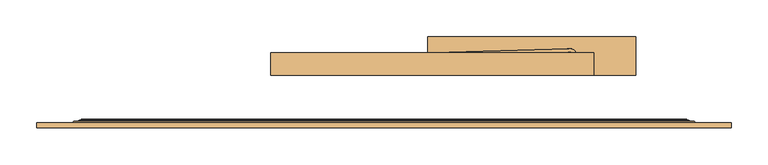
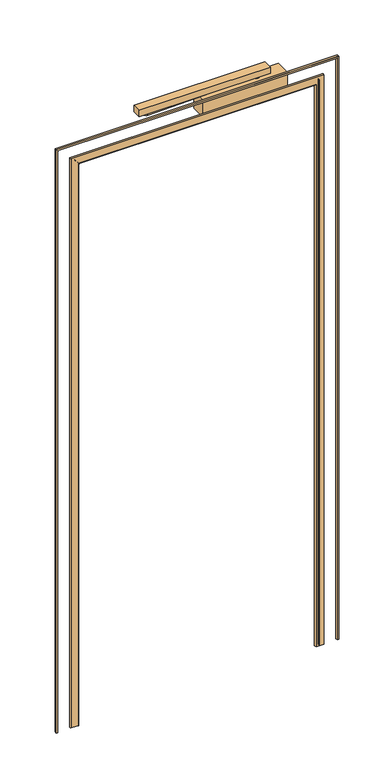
"""IFC4 building model written with IfcOpenShell, lengths in millimetres: door geometry, Peneder_HIGHLINEflat zero_1-flügelig_V2019 : Zargentyp - 07 - Stumpf FP V."""

import ifcopenshell
import ifcopenshell.guid

model = None  # the IFC model being written
_history = None  # IfcOwnerHistory: only IFC2X3 demands one
_inside = {}  # id of a spatial element -> (the spatial element, [elements in it])
_under = {}  # id of a project, library or spatial element -> (it, [spatial elements below it])
_declared = {}  # id of a project -> (the project, [libraries it declares])
_typed = {}  # id of a type object -> (the type object, [elements of that type])
_made_of = {}  # id of a material, layer set ... -> (it, [elements and type objects made of it])


def new_model(schema):
    """Start an empty IFC model of exactly this schema.

    Asked for "IFC4X3", IfcOpenShell would pick the latest addendum, in which some entities
    have other attributes; the version numbers below select the first issue.
    IFC2X3 requires an IfcOwnerHistory on every rooted entity: one is made here for all.
    """
    global model, _history
    if schema == "IFC4X3":
        model = ifcopenshell.file(schema_version=(4, 3, 0, 0))
    else:
        model = ifcopenshell.file(schema=schema)
    _inside.clear()
    _under.clear()
    _declared.clear()
    _typed.clear()
    _made_of.clear()
    _history = None
    if model.schema == "IFC2X3":
        org = make("IfcOrganization", Name="unknown")
        user = make(
            "IfcPersonAndOrganization",
            ThePerson=make("IfcPerson", FamilyName="unknown"),
            TheOrganization=org,
        )
        app = make(
            "IfcApplication",
            ApplicationDeveloper=org,
            Version="unknown",
            ApplicationFullName="unknown",
            ApplicationIdentifier="unknown",
        )
        _history = make(
            "IfcOwnerHistory",
            OwningUser=user,
            OwningApplication=app,
            ChangeAction="ADDED",
            CreationDate=0,
        )
    return model


def make(cls, **values):
    """One entity of the class cls with the attributes given. An attribute that is None is left unset."""
    return model.create_entity(
        cls, **{name: value for name, value in values.items() if value is not None}
    )


def rooted(cls, **values):
    """An entity with a GlobalId (a new one), such as an element, a storey or a relation."""
    return make(cls, GlobalId=ifcopenshell.guid.new(), OwnerHistory=_history, **values)


def si_unit(unit_type, name, prefix=None):
    """IfcSIUnit, for example si_unit("LENGTHUNIT", "METRE", prefix="MILLI")."""
    return make("IfcSIUnit", UnitType=unit_type, Prefix=prefix, Name=name)


def assignment(units):
    """IfcUnitAssignment: the units of a project."""
    return None if units is None else make("IfcUnitAssignment", Units=units)


def point(xyz):
    """IfcCartesianPoint."""
    return None if xyz is None else make("IfcCartesianPoint", Coordinates=xyz)


def direction(xyz):
    """IfcDirection."""
    return None if xyz is None else make("IfcDirection", DirectionRatios=xyz)


def frame(location, z_axis=None, x_axis=None):
    """IfcAxis2Placement3D, a coordinate frame: its origin and axes. An axis left out is left unset."""
    return make(
        "IfcAxis2Placement3D",
        Location=point(location),
        Axis=direction(z_axis),
        RefDirection=direction(x_axis),
    )


def frame_2d(location, x_axis=None):
    """IfcAxis2Placement2D, a coordinate frame in the plane: its origin and x axis."""
    return make(
        "IfcAxis2Placement2D", Location=point(location), RefDirection=direction(x_axis)
    )


def origin():
    """The frame at (0, 0, 0) with its axes left unset."""
    return frame((0.0, 0.0, 0.0))


def place(relative_to, where):
    """IfcLocalPlacement: puts the frame where relative to a parent placement (None: the world)."""
    return make(
        "IfcLocalPlacement", PlacementRelTo=relative_to, RelativePlacement=where
    )


def context(
    kind, dimensions, precision=None, world=None, true_north=None, identifier=None
):
    """IfcGeometricRepresentationContext, for example the 3D "Model" context."""
    return make(
        "IfcGeometricRepresentationContext",
        ContextIdentifier=identifier,
        ContextType=kind,
        CoordinateSpaceDimension=dimensions,
        Precision=precision,
        WorldCoordinateSystem=world,
        TrueNorth=true_north,
    )


def project(units=None, contexts=None):
    """IfcProject with its units and contexts."""
    return rooted(
        "IfcProject",
        Name="project",
        RepresentationContexts=contexts,
        UnitsInContext=assignment(units),
    )


def spatial(cls, under=None, at=None, **own):
    """A site, building, storey or space (cls), placed at a placement, below another one or the project."""
    s = rooted(cls, ObjectPlacement=at, **own)
    if under is not None:
        _under.setdefault(under.id(), (under, []))[1].append(s)
    return s


def polyline(points):
    """IfcPolyline through the points."""
    return make("IfcPolyline", Points=[point(p) for p in points])


def circle_curve(where, radius):
    """IfcCircle in the frame where."""
    return make("IfcCircle", Position=where, Radius=radius)


def ellipse_curve(where, semi_axis1, semi_axis2):
    """IfcEllipse in the frame where."""
    return make(
        "IfcEllipse", Position=where, SemiAxis1=semi_axis1, SemiAxis2=semi_axis2
    )


def trimmed(basis, trim1, trim2, sense, master):
    """IfcTrimmedCurve: the piece of a basis curve between two trims."""
    return make(
        "IfcTrimmedCurve",
        BasisCurve=basis,
        Trim1=trim1,
        Trim2=trim2,
        SenseAgreement=sense,
        MasterRepresentation=master,
    )


def segment(curve, same_sense, transition):
    """IfcCompositeCurveSegment."""
    return make(
        "IfcCompositeCurveSegment",
        Transition=transition,
        SameSense=same_sense,
        ParentCurve=curve,
    )


def composite_curve(segments, self_intersect=None):
    """IfcCompositeCurve: segments joined end to end."""
    return make("IfcCompositeCurve", Segments=segments, SelfIntersect=self_intersect)


def outline(outer, holes=None, kind="AREA"):
    """IfcArbitraryClosedProfileDef: a profile drawn as a closed curve; with holes, ...WithVoids."""
    if holes is None:
        return make("IfcArbitraryClosedProfileDef", ProfileType=kind, OuterCurve=outer)
    return make(
        "IfcArbitraryProfileDefWithVoids",
        ProfileType=kind,
        OuterCurve=outer,
        InnerCurves=holes,
    )


def extrude(swept, where, along, depth):
    """IfcExtrudedAreaSolid: the profile swept, set in the frame where, extruded along a direction by depth."""
    return make(
        "IfcExtrudedAreaSolid",
        SweptArea=swept,
        Position=where,
        ExtrudedDirection=direction(along),
        Depth=depth,
    )


def shape(context_of_items, identifier, shape_type, items):
    """IfcShapeRepresentation: the items that make up one representation, for example the "Body"."""
    return make(
        "IfcShapeRepresentation",
        ContextOfItems=context_of_items,
        RepresentationIdentifier=identifier,
        RepresentationType=shape_type,
        Items=items,
    )


def source(mapping_origin, context_of_items, identifier, shape_type, items):
    """IfcRepresentationMap: a shape defined once, which mapped items show again and again."""
    return make(
        "IfcRepresentationMap",
        MappingOrigin=mapping_origin,
        MappedRepresentation=shape(context_of_items, identifier, shape_type, items),
    )


def transform(
    local_origin,
    x_axis=None,
    y_axis=None,
    z_axis=None,
    scale=None,
    scale2=None,
    scale3=None,
    uniform=True,
):
    """IfcCartesianTransformationOperator3D, or its non-uniform kind. x_axis, y_axis, z_axis: its Axis1, 2, 3."""
    if uniform:
        return make(
            "IfcCartesianTransformationOperator3D",
            Axis1=direction(x_axis),
            Axis2=direction(y_axis),
            LocalOrigin=point(local_origin),
            Scale=scale,
            Axis3=direction(z_axis),
        )
    return make(
        "IfcCartesianTransformationOperator3DnonUniform",
        Axis1=direction(x_axis),
        Axis2=direction(y_axis),
        LocalOrigin=point(local_origin),
        Scale=scale,
        Axis3=direction(z_axis),
        Scale2=scale2,
        Scale3=scale3,
    )


def mapped(mapping_source, mapping_target):
    """IfcMappedItem: shows the shape of a source again, moved by a transform."""
    return make(
        "IfcMappedItem", MappingSource=mapping_source, MappingTarget=mapping_target
    )


def made_of(thing, what):
    """Note that an element or type object is made of a material, layer set ...; save() writes the relation."""
    if what is not None:
        _made_of.setdefault(what.id(), (what, []))[1].append(thing)
    return thing


def element(
    cls,
    number,
    at=None,
    inside=None,
    cuts=None,
    type_object=None,
    material=None,
    context=None,
    identifier="Body",
    shape_type=None,
    held_by="IfcProductDefinitionShape",
    body=None,
    shapes=None,
    **own,
):
    """One element of the class cls, such as IfcWall. Its Tag is "e" and its number.

    at: its placement. inside: the storey or other place that contains it. cuts: it is an
    opening in that element (IfcRelVoidsElement). A single representation is given by context,
    identifier, shape_type and body (its items); several are given by shapes. held_by: the class
    of the entity that holds the representations. save() writes the other relations.
    """
    e = rooted(cls, Tag="e%d" % number, ObjectPlacement=at, **own)
    if body is not None:
        shapes = [shape(context, identifier, shape_type, body)]
    if shapes is not None:
        e.Representation = make(held_by, Representations=shapes)
    if inside is not None:
        _inside.setdefault(inside.id(), (inside, []))[1].append(e)
    if cuts is not None:
        rooted(
            "IfcRelVoidsElement", RelatingBuildingElement=cuts, RelatedOpeningElement=e
        )
    if type_object is not None:
        _typed.setdefault(type_object.id(), (type_object, []))[1].append(e)
    return made_of(e, material)


def aggregate(whole, parts):
    """IfcRelAggregates: a whole, such as a stair, and the parts it consists of."""
    return rooted("IfcRelAggregates", RelatingObject=whole, RelatedObjects=parts)


def save(model, path):
    """Write the relations noted so far, then the file.

    IfcRelAggregates (storeys below a building ...), IfcRelContainedInSpatialStructure (elements
    in a storey), IfcRelDefinesByType, IfcRelAssociatesMaterial and IfcRelDeclares: one each for
    every whole, place, type object, material and project.
    """
    for whole, parts in _under.values():
        aggregate(whole, parts)
    for where, things in _inside.values():
        rooted(
            "IfcRelContainedInSpatialStructure",
            RelatedElements=things,
            RelatingStructure=where,
        )
    for kind, things in _typed.values():
        rooted("IfcRelDefinesByType", RelatedObjects=things, RelatingType=kind)
    for what, things in _made_of.values():
        rooted("IfcRelAssociatesMaterial", RelatedObjects=things, RelatingMaterial=what)
    for by, libraries in _declared.values():
        rooted("IfcRelDeclares", RelatingContext=by, RelatedDefinitions=libraries)
    model.write(path)


def plane_surface(at):
    """IfcPlane: the flat surface through the origin of the frame at, square to its z axis."""
    return make("IfcPlane", Position=at)


def cylinder_surface(at, radius):
    """IfcCylindricalSurface: all points at the distance radius from the z axis of the frame at."""
    return make("IfcCylindricalSurface", Position=at, Radius=radius)


def revolved_surface(curve, axis_point, axis_direction):
    """IfcSurfaceOfRevolution: the curve turned about the line through axis_point along axis_direction."""
    return make(
        "IfcSurfaceOfRevolution",
        SweptCurve=make("IfcArbitraryOpenProfileDef", ProfileType="CURVE", Curve=curve),
        AxisPosition=make("IfcAxis1Placement", Location=point(axis_point), Axis=direction(axis_direction)),
    )


def advanced_brep(points, edges, surfaces, faces):
    """IfcAdvancedBrep: a solid bounded by faces that lie on surfaces and meet in shared edges.

    An edge is (start, end): straight between two places in points (the first is 0);
    or (start, end, curve); or (start, end, curve, False) where it runs against its curve.
    A face is (place in surfaces, loops), or (place, loops, False) where it looks against
    its surface's normal. A loop lists edges by number (the first is 1), with a minus sign
    where the edge is run from its end to its start. The first loop is the outer one.
    """
    corners = [point(p) for p in points]
    vertices = [make("IfcVertexPoint", VertexGeometry=c) for c in corners]
    made = []
    for start, end, *more in edges:
        made.append(
            make(
                "IfcEdgeCurve",
                EdgeStart=vertices[start],
                EdgeEnd=vertices[end],
                EdgeGeometry=more[0] if more else make("IfcPolyline", Points=[corners[start], corners[end]]),
                SameSense=more[1] if len(more) > 1 else True,
            )
        )
    hull = []
    for where, loops, *sense in faces:
        bounds = []
        for j, loop in enumerate(loops):
            ring = [make("IfcOrientedEdge", EdgeElement=made[abs(k) - 1], Orientation=k > 0) for k in loop]
            bounds.append(
                make(
                    "IfcFaceOuterBound" if j == 0 else "IfcFaceBound",
                    Bound=make("IfcEdgeLoop", EdgeList=ring),
                    Orientation=True,
                )
            )
        hull.append(make("IfcAdvancedFace", Bounds=bounds, FaceSurface=surfaces[where], SameSense=sense[0] if sense else True))
    return make("IfcAdvancedBrep", Outer=make("IfcClosedShell", CfsFaces=hull))


def door_818478f5(model_context):
    return source(origin(), model_context, "Body", "SolidModel", [
        extrude(outline(composite_curve([segment(polyline([(-122.2924281, 100.4957234), (253.7075719, 111.4957234)]), True, "CONTINUOUS"), segment(trimmed(circle_curve(frame_2d((254.0, 101.5)), 10.0), [point((253.7075719, 111.4957234))], [point((254.2924281, 91.5042766))], False, "CARTESIAN"), True, "CONTINUOUS"), segment(polyline([(254.2924281, 91.5042766), (-121.7075719, 80.5042766)]), True, "CONTINUOUS"), segment(trimmed(circle_curve(frame_2d((-122.0, 90.5)), 10.0), [point((-121.7075719, 80.5042766))], [point((-122.2924281, 100.4957234))], False, "CARTESIAN"), True, "CONTINUOUS")], self_intersect=False)), frame((0.0, 0.0, 2028.0), z_axis=(0.0, 0.0, 1.0), x_axis=(1.0, 0.0, 0.0)), (0.0, 0.0, 1.0), 5.0),
        advanced_brep(
        [(-132.0, 90.5, 2037.0), (-112.0, 90.5, 2037.0), (-122.0, 90.5, 2037.0), (-132.0, 90.5, 2033.0), (-112.0, 90.5, 2033.0), (-122.0, 90.5, 2033.0)],
        [
            (0, 1, circle_curve(frame((-122.0, 90.5, 2037.0), z_axis=(0.0, 0.0, 1.0), x_axis=(1.0, 0.0, 0.0)), 10.0)),
            (1, 2),
            (2, 0),
            (1, 0, circle_curve(frame((-122.0, 90.5, 2037.0), z_axis=(0.0, 0.0, 1.0), x_axis=(1.0, 0.0, 0.0)), 10.0)),
            (3, 4, circle_curve(frame((-122.0, 90.5, 2033.0), z_axis=(0.0, 0.0, 1.0), x_axis=(1.0, 0.0, 0.0)), 10.0)),
            (4, 1),
            (0, 3),
            (4, 3, circle_curve(frame((-122.0, 90.5, 2033.0), z_axis=(0.0, 0.0, 1.0), x_axis=(1.0, 0.0, 0.0)), 10.0)),
            (5, 4),
            (3, 5),
        ],
        [
            plane_surface(frame((-122.0, 90.5, 2037.0), z_axis=(0.0, 0.0, 1.0), x_axis=(1.0, 0.0, 0.0))),
            cylinder_surface(frame((-122.0, 90.5, 2055.0), z_axis=(0.0, 0.0, -1.0), x_axis=(1.0, 0.0, 0.0)), 10.0),
            plane_surface(frame((-122.0, 90.5, 2033.0), z_axis=(0.0, 0.0, -1.0), x_axis=(1.0, 0.0, 0.0))),
        ],
        [
            (0, [[1, 2, 3]]),
            (0, [[4, -3, -2]]),
            (1, [[5, 6, -1, 7]]),
            (1, [[8, -7, -4, -6]]),
            (2, [[9, -5, 10]]),
            (2, [[-10, -8, -9]]),
        ],
    ),
        advanced_brep(
        [(-127.0, 90.5, 2028.0), (-117.0, 90.5, 2028.0), (-122.0, 90.5, 2028.0), (-127.0, 90.5, 2026.0), (-117.0, 90.5, 2026.0), (-122.0, 90.5, 2026.0)],
        [
            (0, 1, circle_curve(frame((-122.0, 90.5, 2028.0), z_axis=(0.0, 0.0, 1.0), x_axis=(1.0, 0.0, 0.0)), 5.0)),
            (1, 2),
            (2, 0),
            (1, 0, circle_curve(frame((-122.0, 90.5, 2028.0), z_axis=(0.0, 0.0, 1.0), x_axis=(1.0, 0.0, 0.0)), 5.0)),
            (3, 4, circle_curve(frame((-122.0, 90.5, 2026.0), z_axis=(0.0, 0.0, 1.0), x_axis=(1.0, 0.0, 0.0)), 5.0)),
            (4, 1),
            (0, 3),
            (4, 3, circle_curve(frame((-122.0, 90.5, 2026.0), z_axis=(0.0, 0.0, 1.0), x_axis=(1.0, 0.0, 0.0)), 5.0)),
            (5, 4),
            (3, 5),
        ],
        [
            plane_surface(frame((-122.0, 90.5, 2028.0), z_axis=(0.0, 0.0, 1.0), x_axis=(1.0, 0.0, 0.0))),
            cylinder_surface(frame((-122.0, 90.5, 2055.0), z_axis=(0.0, 0.0, -1.0), x_axis=(1.0, 0.0, 0.0)), 5.0),
            plane_surface(frame((-122.0, 90.5, 2026.0), z_axis=(0.0, 0.0, -1.0), x_axis=(1.0, 0.0, 0.0))),
        ],
        [
            (0, [[1, 2, 3]]),
            (0, [[4, -3, -2]]),
            (1, [[5, 6, -1, 7]]),
            (1, [[8, -7, -4, -6]]),
            (2, [[9, -5, 10]]),
            (2, [[-10, -8, -9]]),
        ],
    ),
        advanced_brep(
        [(254.0, 101.5, 2033.0), (259.0, 101.5, 2033.0), (249.0, 101.5, 2033.0), (249.0, 101.5, 2035.0), (259.0, 101.5, 2035.0), (254.0, 101.5, 2035.0)],
        [
            (0, 1),
            (1, 2, circle_curve(frame((254.0, 101.5, 2033.0), z_axis=(0.0, 0.0, -1.0), x_axis=(1.0, 0.0, 0.0)), 5.0)),
            (2, 0),
            (2, 1, circle_curve(frame((254.0, 101.5, 2033.0), z_axis=(0.0, 0.0, -1.0), x_axis=(1.0, 0.0, 0.0)), 5.0)),
            (3, 4, circle_curve(frame((254.0, 101.5, 2035.0), z_axis=(0.0, 0.0, 1.0), x_axis=(1.0, 0.0, 0.0)), 5.0)),
            (4, 5),
            (5, 3),
            (4, 3, circle_curve(frame((254.0, 101.5, 2035.0), z_axis=(0.0, 0.0, 1.0), x_axis=(1.0, 0.0, 0.0)), 5.0)),
            (1, 4),
            (3, 2),
        ],
        [
            plane_surface(frame((254.0, 101.5, 2033.0), z_axis=(0.0, 0.0, -1.0), x_axis=(1.0, 0.0, 0.0))),
            plane_surface(frame((254.0, 101.5, 2035.0), z_axis=(0.0, 0.0, 1.0), x_axis=(1.0, 0.0, 0.0))),
            cylinder_surface(frame((254.0, 101.5, 2048.8284376), z_axis=(0.0, 0.0, -1.0), x_axis=(1.0, 0.0, 0.0)), 5.0),
        ],
        [
            (0, [[1, 2, 3]]),
            (0, [[-3, 4, -1]]),
            (1, [[5, 6, 7]]),
            (1, [[8, -7, -6]]),
            (2, [[-2, 9, -5, 10]]),
            (2, [[-4, -10, -8, -9]]),
        ],
    ),
        advanced_brep(
        [(244.0, 101.5, 2021.0), (264.0, 101.5, 2021.0), (264.0, 101.5, 2028.0), (244.0, 101.5, 2028.0), (254.0, 101.5, 2021.0), (254.0, 101.5, 2028.0)],
        [
            (0, 1, circle_curve(frame((254.0, 101.5, 2021.0), z_axis=(0.0, 0.0, 1.0), x_axis=(1.0, 0.0, 0.0)), 10.0)),
            (1, 2),
            (2, 3, circle_curve(frame((254.0, 101.5, 2028.0), z_axis=(0.0, 0.0, -1.0), x_axis=(1.0, 0.0, 0.0)), 10.0)),
            (3, 0),
            (1, 0, circle_curve(frame((254.0, 101.5, 2021.0), z_axis=(0.0, 0.0, 1.0), x_axis=(1.0, 0.0, 0.0)), 10.0)),
            (3, 2, circle_curve(frame((254.0, 101.5, 2028.0), z_axis=(0.0, 0.0, -1.0), x_axis=(1.0, 0.0, 0.0)), 10.0)),
            (4, 1),
            (0, 4),
            (2, 5),
            (5, 3),
        ],
        [
            cylinder_surface(frame((254.0, 101.5, 2048.8284376), z_axis=(0.0, 0.0, -1.0), x_axis=(1.0, 0.0, 0.0)), 10.0),
            plane_surface(frame((254.0, 101.5, 2021.0), z_axis=(0.0, 0.0, -1.0), x_axis=(1.0, 0.0, 0.0))),
            plane_surface(frame((254.0, 101.5, 2028.0), z_axis=(0.0, 0.0, 1.0), x_axis=(1.0, 0.0, 0.0))),
        ],
        [
            (0, [[1, 2, 3, 4]]),
            (0, [[5, -4, 6, -2]]),
            (1, [[7, -1, 8]]),
            (1, [[-8, -5, -7]]),
            (2, [[-3, 9, 10]]),
            (2, [[-6, -10, -9]]),
        ],
    ),
        extrude(outline(polyline([(60.0, 128.0), (345.0, 128.0), (345.0, 75.0), (60.0, 75.0), (60.0, 128.0)])), frame((0.0, 0.0, 1961.0), z_axis=(0.0, 0.0, 1.0), x_axis=(1.0, 0.0, 0.0)), (0.0, 0.0, 1.0), 60.0),
        extrude(outline(polyline([(-155.0, 106.0), (287.0, 106.0), (287.0, 75.0), (-155.0, 75.0), (-155.0, 106.0)])), frame((0.0, 0.0, 2037.0), z_axis=(0.0, 0.0, 1.0), x_axis=(1.0, 0.0, 0.0)), (0.0, 0.0, 1.0), 23.0),
        advanced_brep(
        [(-402.05, 4.2254834, 0.0), (-425.9062288, 4.2254834, 0.0), (-425.1323662, 12.2254834, 0.0), (-419.4591187, 12.2254834, 0.0), (-417.8008552, 12.9492036, 0.0), (-417.1210444, 12.7801414, 0.0), (-416.924562, 11.6761181, 0.0), (-415.0, 11.6761181, 0.0), (-415.0, 14.7384767, 0.0), (-413.5447976, 13.5950735, 0.0), (-412.7395017, 7.283186, 0.0), (-412.4951322, 6.5254834, 0.0), (-411.7774425, 7.0507116, 0.0), (-406.8203168, 8.805924, 0.0), (-403.778023, 8.4548257, 0.0), (-404.1921942, 10.8254849, 0.0), (-411.4703352, 10.8254849, 0.0), (-411.9802331, 12.1254872, 0.0), (-403.542028, 12.1254872, 0.0), (-400.342925, 10.6598817, 0.0), (-399.0173944, 10.2704277, 0.0), (-398.5147705, 9.7943014, 0.0), (-400.1461588, 2.9356734, 0.0), (-402.05, 4.2254834, 2002.05), (402.05, 4.2254834, 2002.05), (402.05, 4.2254834, 0.0), (425.9062288, 4.2254834, 0.0), (425.9062288, 4.2254834, 2025.9062288), (-425.9062288, 4.2254834, 2025.9062288), (-425.1323662, 12.2254834, 2025.1323662), (425.1323662, 12.2254834, 2025.1323662), (425.1323662, 12.2254834, 0.0), (419.4591187, 12.2254834, 0.0), (419.4591187, 12.2254834, 2019.4591187), (-419.4591187, 12.2254834, 2019.4591187), (-417.8008552, 12.9492036, 2017.8008552), (-417.1210444, 12.7801414, 2017.1210444), (-416.924562, 11.6761181, 2016.924562), (416.924562, 11.6761181, 2016.924562), (416.924562, 11.6761181, 0.0), (415.0, 11.6761181, 0.0), (415.0, 11.6761181, 2015.0), (-415.0, 11.6761181, 2015.0), (-415.0, 14.7384767, 2015.0), (-413.5447976, 13.5950735, 2013.5447976), (-412.7395017, 7.283186, 2012.7395017), (-412.4951322, 6.5254834, 2012.4951322), (-411.7774425, 7.0507116, 2011.7774425), (-406.8203168, 8.805924, 2006.8203168), (-403.778023, 8.4548257, 2003.778023), (-404.1921942, 10.8254849, 2004.1921942), (404.1921942, 10.8254849, 2004.1921942), (404.1921942, 10.8254849, 0.0), (411.4703352, 10.8254849, 0.0), (411.4703352, 10.8254849, 2011.4703352), (-411.4703352, 10.8254849, 2011.4703352), (-411.9802331, 12.1254872, 2011.9802331), (411.9802331, 12.1254872, 2011.9802331), (411.9802331, 12.1254872, 0.0), (403.542028, 12.1254872, 0.0), (403.542028, 12.1254872, 2003.542028), (-403.542028, 12.1254872, 2003.542028), (-400.342925, 10.6598817, 2000.342925), (-399.0173944, 10.2704277, 1999.0173944), (-398.5147705, 9.7943014, 1998.5147705), (-400.1461588, 2.9356734, 2000.1461588), (400.1461588, 2.9356734, 0.0), (398.5147705, 9.7943014, 0.0), (399.0173944, 10.2704277, 0.0), (400.342925, 10.6598817, 0.0), (403.778023, 8.4548256, 0.0), (406.8203168, 8.805924, 0.0), (411.7774425, 7.0507116, 0.0), (412.4951322, 6.5254834, 0.0), (412.7395017, 7.283186, 0.0), (413.5447976, 13.5950735, 0.0), (415.0, 14.7384767, 0.0), (417.1210444, 12.7801414, 0.0), (417.8008552, 12.9492036, 0.0), (400.1461588, 2.9356734, 2000.1461588), (398.5147705, 9.7943014, 1998.5147705), (399.0173944, 10.2704277, 1999.0173944), (400.342925, 10.6598817, 2000.342925), (403.778023, 8.4548256, 2003.778023), (406.8203168, 8.805924, 2006.8203168), (411.7774425, 7.0507116, 2011.7774425), (412.4951322, 6.5254834, 2012.4951322), (412.7395017, 7.283186, 2012.7395017), (413.5447976, 13.5950735, 2013.5447976), (415.0, 14.7384767, 2015.0), (417.1210444, 12.7801414, 2017.1210444), (417.8008552, 12.9492036, 2017.8008552)],
        [
            (0, 1),
            (1, 2, circle_curve(frame((-421.5807272, 7.8444943, 0.0), z_axis=(0.0, 0.0, -1.0), x_axis=(0.0, 1.0, 0.0)), 5.6397876)),
            (2, 3),
            (3, 4, circle_curve(frame((-419.4591187, 14.4871368, 0.0), z_axis=(0.0, 0.0, 1.0), x_axis=(0.0, 1.0, 0.0)), 2.2616534)),
            (4, 5, circle_curve(frame((-417.5075718, 12.6772021, 0.0), z_axis=(0.0, 0.0, -1.0), x_axis=(0.0, 1.0, 0.0)), 0.4)),
            (5, 6),
            (6, 7),
            (7, 8),
            (8, 9, circle_curve(frame((-414.7215735, 13.5951132, 0.0), z_axis=(0.0, 0.0, -1.0), x_axis=(0.0, 1.0, 0.0)), 1.1767758)),
            (9, 10, circle_curve(frame((-388.4126086, 13.5942238, 0.0), z_axis=(0.0, 0.0, 1.0), x_axis=(0.0, 1.0, 0.0)), 25.132189)),
            (10, 11, circle_curve(frame((-412.4981442, 6.9427696, 0.0), z_axis=(0.0, 0.0, 1.0), x_axis=(0.0, 1.0, 0.0)), 0.417297)),
            (11, 12, circle_curve(frame((-412.5006211, 7.2859357, 0.0), z_axis=(0.0, 0.0, 1.0), x_axis=(0.0, 1.0, 0.0)), 0.7604721)),
            (12, 13, circle_curve(frame((-408.6250838, 6.0253625, 0.0), z_axis=(0.0, 0.0, -1.0), x_axis=(0.0, 1.0, 0.0)), 3.3149218)),
            (13, 14, circle_curve(frame((-404.9455761, 11.6942923, 0.0), z_axis=(0.0, 0.0, 1.0), x_axis=(0.0, 1.0, 0.0)), 3.4434465)),
            (14, 15, circle_curve(frame((-404.1921942, 9.6039759, 0.0), z_axis=(0.0, 0.0, 1.0), x_axis=(0.0, 1.0, 0.0)), 1.221509)),
            (15, 16),
            (16, 17, circle_curve(frame((-411.9802331, 11.3754878, 0.0), z_axis=(0.0, 0.0, -1.0), x_axis=(0.0, 1.0, 0.0)), 0.7499994)),
            (17, 18),
            (18, 19, circle_curve(frame((-403.542028, 7.9012059, 0.0), z_axis=(0.0, 0.0, -1.0), x_axis=(0.0, 1.0, 0.0)), 4.2242813)),
            (19, 20, circle_curve(frame((-399.3786336, 11.4914171, 0.0), z_axis=(0.0, 0.0, 1.0), x_axis=(0.0, 1.0, 0.0)), 1.2733063)),
            (20, 21, circle_curve(frame((-398.9039137, 9.8868627, 0.0), z_axis=(0.0, 0.0, -1.0), x_axis=(0.0, 1.0, 0.0)), 0.4)),
            (21, 22),
            (22, 0, circle_curve(frame((-402.05, 2.1754834, 0.0), z_axis=(0.0, 0.0, 1.0), x_axis=(0.0, 1.0, 0.0)), 2.05)),
            (0, 23),
            (23, 24),
            (24, 25),
            (25, 26),
            (26, 27),
            (27, 28),
            (28, 1),
            (28, 29, ellipse_curve(frame((-421.5807272, 7.8444943, 2021.5807272), z_axis=(-0.7071067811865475, 0.0, -0.7071067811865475), x_axis=(0.7071067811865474, 0.0, -0.7071067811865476)), 7.9758641, 5.6397876)),
            (29, 2),
            (29, 30),
            (30, 31),
            (31, 32),
            (32, 33),
            (33, 34),
            (34, 3),
            (34, 35, ellipse_curve(frame((-419.4591187, 14.4871368, 2019.4591187), z_axis=(0.7071067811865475, 0.0, 0.7071067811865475), x_axis=(-0.7071067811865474, 0.0, 0.7071067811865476)), 3.1984609, 2.2616534)),
            (35, 4),
            (35, 36, ellipse_curve(frame((-417.5075718, 12.6772021, 2017.5075718), z_axis=(-0.7071067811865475, 0.0, -0.7071067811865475), x_axis=(0.7071067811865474, 0.0, -0.7071067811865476)), 0.5656854, 0.4)),
            (36, 5),
            (36, 37),
            (37, 6),
            (37, 38),
            (38, 39),
            (39, 40),
            (40, 41),
            (41, 42),
            (42, 7),
            (42, 43),
            (43, 8),
            (43, 44, ellipse_curve(frame((-414.7215735, 13.5951132, 2014.7215735), z_axis=(-0.7071067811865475, 0.0, -0.7071067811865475), x_axis=(0.7071067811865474, 0.0, -0.7071067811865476)), 1.6642124, 1.1767758)),
            (44, 9),
            (44, 45, ellipse_curve(frame((-388.4126086, 13.5942238, 1988.4126086), z_axis=(0.7071067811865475, 0.0, 0.7071067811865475), x_axis=(-0.7071067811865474, 0.0, 0.7071067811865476)), 35.5422826, 25.132189)),
            (45, 10),
            (45, 46, ellipse_curve(frame((-412.4981442, 6.9427696, 2012.4981442), z_axis=(0.7071067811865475, 0.0, 0.7071067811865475), x_axis=(-0.7071067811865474, 0.0, 0.7071067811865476)), 0.5901471, 0.417297)),
            (46, 11),
            (46, 47, ellipse_curve(frame((-412.5006211, 7.2859357, 2012.5006211), z_axis=(0.7071067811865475, 0.0, 0.7071067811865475), x_axis=(-0.7071067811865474, 0.0, 0.7071067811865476)), 1.0754699, 0.7604721)),
            (47, 12),
            (47, 48, ellipse_curve(frame((-408.6250838, 6.0253625, 2008.6250838), z_axis=(-0.7071067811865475, 0.0, -0.7071067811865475), x_axis=(0.7071067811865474, 0.0, -0.7071067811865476)), 4.6880073, 3.3149218)),
            (48, 13),
            (48, 49, ellipse_curve(frame((-404.9455761, 11.6942923, 2004.9455761), z_axis=(0.7071067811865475, 0.0, 0.7071067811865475), x_axis=(-0.7071067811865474, 0.0, 0.7071067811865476)), 4.8697688, 3.4434465)),
            (49, 14),
            (49, 50, ellipse_curve(frame((-404.1921942, 9.6039759, 2004.1921942), z_axis=(0.7071067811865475, 0.0, 0.7071067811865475), x_axis=(-0.7071067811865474, 0.0, 0.7071067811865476)), 1.7274746, 1.221509)),
            (50, 15),
            (50, 51),
            (51, 52),
            (52, 53),
            (53, 54),
            (54, 55),
            (55, 16),
            (55, 56, ellipse_curve(frame((-411.9802331, 11.3754878, 2011.9802331), z_axis=(-0.7071067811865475, 0.0, -0.7071067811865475), x_axis=(0.7071067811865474, 0.0, -0.7071067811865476)), 1.0606593, 0.7499994)),
            (56, 17),
            (56, 57),
            (57, 58),
            (58, 59),
            (59, 60),
            (60, 61),
            (61, 18),
            (61, 62, ellipse_curve(frame((-403.542028, 7.9012059, 2003.542028), z_axis=(-0.7071067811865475, 0.0, -0.7071067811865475), x_axis=(0.7071067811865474, 0.0, -0.7071067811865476)), 5.974036, 4.2242813)),
            (62, 19),
            (62, 63, ellipse_curve(frame((-399.3786336, 11.4914171, 1999.3786336), z_axis=(0.7071067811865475, 0.0, 0.7071067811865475), x_axis=(-0.7071067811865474, 0.0, 0.7071067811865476)), 1.800727, 1.2733063)),
            (63, 20),
            (63, 64, ellipse_curve(frame((-398.9039137, 9.8868627, 1998.9039137), z_axis=(-0.7071067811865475, 0.0, -0.7071067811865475), x_axis=(0.7071067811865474, 0.0, -0.7071067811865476)), 0.5656854, 0.4)),
            (64, 21),
            (64, 65),
            (65, 22),
            (65, 23, ellipse_curve(frame((-402.05, 2.1754834, 2002.05), z_axis=(0.7071067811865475, 0.0, 0.7071067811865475), x_axis=(-0.7071067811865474, 0.0, 0.7071067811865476)), 2.8991378, 2.05)),
            (25, 66, circle_curve(frame((402.05, 2.1754834, 0.0), z_axis=(0.0, 0.0, 1.0), x_axis=(0.0, 1.0, 0.0)), 2.05)),
            (66, 67),
            (67, 68, circle_curve(frame((398.9039137, 9.8868627, 0.0), z_axis=(0.0, 0.0, -1.0), x_axis=(0.0, 1.0, 0.0)), 0.4)),
            (68, 69, circle_curve(frame((399.3786336, 11.4914171, 0.0), z_axis=(0.0, 0.0, 1.0), x_axis=(0.0, 1.0, 0.0)), 1.2733063)),
            (69, 59, circle_curve(frame((403.542028, 7.9012059, 0.0), z_axis=(0.0, 0.0, -1.0), x_axis=(0.0, 1.0, 0.0)), 4.2242813)),
            (58, 53, circle_curve(frame((411.9802331, 11.3754878, 0.0), z_axis=(0.0, 0.0, -1.0), x_axis=(0.0, 1.0, 0.0)), 0.7499994)),
            (52, 70, circle_curve(frame((404.1921942, 9.6039759, 0.0), z_axis=(0.0, 0.0, 1.0), x_axis=(0.0, 1.0, 0.0)), 1.221509)),
            (70, 71, circle_curve(frame((404.9455761, 11.6942923, 0.0), z_axis=(0.0, 0.0, 1.0), x_axis=(0.0, 1.0, 0.0)), 3.4434465)),
            (71, 72, circle_curve(frame((408.6250838, 6.0253625, 0.0), z_axis=(0.0, 0.0, -1.0), x_axis=(0.0, 1.0, 0.0)), 3.3149218)),
            (72, 73, circle_curve(frame((412.5006211, 7.2859357, 0.0), z_axis=(0.0, 0.0, 1.0), x_axis=(0.0, 1.0, 0.0)), 0.7604721)),
            (73, 74, circle_curve(frame((412.4981442, 6.9427696, 0.0), z_axis=(0.0, 0.0, 1.0), x_axis=(0.0, 1.0, 0.0)), 0.417297)),
            (74, 75, circle_curve(frame((388.4126086, 13.5942238, 0.0), z_axis=(0.0, 0.0, 1.0), x_axis=(0.0, 1.0, 0.0)), 25.132189)),
            (75, 76, circle_curve(frame((414.7215735, 13.5951132, 0.0), z_axis=(0.0, 0.0, -1.0), x_axis=(0.0, 1.0, 0.0)), 1.1767758)),
            (76, 40),
            (39, 77),
            (77, 78, circle_curve(frame((417.5075718, 12.6772021, 0.0), z_axis=(0.0, 0.0, -1.0), x_axis=(0.0, 1.0, 0.0)), 0.4)),
            (78, 32, circle_curve(frame((419.4591187, 14.4871368, 0.0), z_axis=(0.0, 0.0, 1.0), x_axis=(0.0, 1.0, 0.0)), 2.2616534)),
            (31, 26, circle_curve(frame((421.5807272, 7.8444943, 0.0), z_axis=(0.0, 0.0, -1.0), x_axis=(0.0, 1.0, 0.0)), 5.6397876)),
            (24, 79, ellipse_curve(frame((402.05, 2.1754834, 2002.05), z_axis=(-0.7071067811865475, 0.0, 0.7071067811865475), x_axis=(-0.7071067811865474, 0.0, -0.7071067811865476)), 2.8991378, 2.05)),
            (79, 66),
            (79, 80),
            (80, 67),
            (80, 81, ellipse_curve(frame((398.9039137, 9.8868627, 1998.9039137), z_axis=(0.7071067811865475, 0.0, -0.7071067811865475), x_axis=(0.7071067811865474, 0.0, 0.7071067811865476)), 0.5656854, 0.4)),
            (81, 68),
            (81, 82, ellipse_curve(frame((399.3786336, 11.4914171, 1999.3786336), z_axis=(-0.7071067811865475, 0.0, 0.7071067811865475), x_axis=(-0.7071067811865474, 0.0, -0.7071067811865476)), 1.800727, 1.2733063)),
            (82, 69),
            (82, 60, ellipse_curve(frame((403.542028, 7.9012059, 2003.542028), z_axis=(0.7071067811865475, 0.0, -0.7071067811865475), x_axis=(0.7071067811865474, 0.0, 0.7071067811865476)), 5.974036, 4.2242813)),
            (57, 54, ellipse_curve(frame((411.9802331, 11.3754878, 2011.9802331), z_axis=(0.7071067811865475, 0.0, -0.7071067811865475), x_axis=(0.7071067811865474, 0.0, 0.7071067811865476)), 1.0606593, 0.7499994)),
            (51, 83, ellipse_curve(frame((404.1921942, 9.6039759, 2004.1921942), z_axis=(-0.7071067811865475, 0.0, 0.7071067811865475), x_axis=(-0.7071067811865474, 0.0, -0.7071067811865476)), 1.7274746, 1.221509)),
            (83, 70),
            (83, 84, ellipse_curve(frame((404.9455761, 11.6942923, 2004.9455761), z_axis=(-0.7071067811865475, 0.0, 0.7071067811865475), x_axis=(-0.7071067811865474, 0.0, -0.7071067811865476)), 4.8697688, 3.4434465)),
            (84, 71),
            (84, 85, ellipse_curve(frame((408.6250838, 6.0253625, 2008.6250838), z_axis=(0.7071067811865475, 0.0, -0.7071067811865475), x_axis=(0.7071067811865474, 0.0, 0.7071067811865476)), 4.6880073, 3.3149218)),
            (85, 72),
            (85, 86, ellipse_curve(frame((412.5006211, 7.2859357, 2012.5006211), z_axis=(-0.7071067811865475, 0.0, 0.7071067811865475), x_axis=(-0.7071067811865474, 0.0, -0.7071067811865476)), 1.0754699, 0.7604721)),
            (86, 73),
            (86, 87, ellipse_curve(frame((412.4981442, 6.9427696, 2012.4981442), z_axis=(-0.7071067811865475, 0.0, 0.7071067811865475), x_axis=(-0.7071067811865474, 0.0, -0.7071067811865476)), 0.5901471, 0.417297)),
            (87, 74),
            (87, 88, ellipse_curve(frame((388.4126086, 13.5942238, 1988.4126086), z_axis=(-0.7071067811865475, 0.0, 0.7071067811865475), x_axis=(-0.7071067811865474, 0.0, -0.7071067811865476)), 35.5422826, 25.132189)),
            (88, 75),
            (88, 89, ellipse_curve(frame((414.7215735, 13.5951132, 2014.7215735), z_axis=(0.7071067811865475, 0.0, -0.7071067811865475), x_axis=(0.7071067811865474, 0.0, 0.7071067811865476)), 1.6642124, 1.1767758)),
            (89, 76),
            (89, 41),
            (38, 90),
            (90, 77),
            (90, 91, ellipse_curve(frame((417.5075718, 12.6772021, 2017.5075718), z_axis=(0.7071067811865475, 0.0, -0.7071067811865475), x_axis=(0.7071067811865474, 0.0, 0.7071067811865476)), 0.5656854, 0.4)),
            (91, 78),
            (91, 33, ellipse_curve(frame((419.4591187, 14.4871368, 2019.4591187), z_axis=(-0.7071067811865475, 0.0, 0.7071067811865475), x_axis=(-0.7071067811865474, 0.0, -0.7071067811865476)), 3.1984609, 2.2616534)),
            (30, 27, ellipse_curve(frame((421.5807272, 7.8444943, 2021.5807272), z_axis=(0.7071067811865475, 0.0, -0.7071067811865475), x_axis=(0.7071067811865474, 0.0, 0.7071067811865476)), 7.9758641, 5.6397876)),
            (91, 35),
            (90, 36),
            (89, 43),
            (88, 44),
            (87, 45),
            (86, 46),
            (85, 47),
            (84, 48),
            (83, 49),
            (82, 62),
            (81, 63),
            (80, 64),
            (79, 65),
        ],
        [
            plane_surface(frame((-476.0, 75.0, 0.0), z_axis=(0.0, 0.0, -1.0), x_axis=(0.0, 1.0, 0.0))),
            plane_surface(frame((-402.05, 4.2254834, 0.0), z_axis=(0.0, -1.0, 0.0), x_axis=(0.0, 0.0, 1.0))),
            cylinder_surface(frame((-421.5807272, 7.8444943, 0.0), z_axis=(0.0, 0.0, -1.0), x_axis=(0.0, 1.0, 0.0)), 5.6397876),
            plane_surface(frame((-425.1323662, 12.2254834, 0.0), z_axis=(0.0, 1.0, 0.0), x_axis=(0.0, 0.0, 1.0))),
            revolved_surface(polyline([(-419.4591187, 16.748790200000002, 2021.7207720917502), (-419.4591187, 16.748790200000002, 0.0)]), (-419.4591187, 14.4871368, 0.0), (0.0, 0.0, 1.0)),
            cylinder_surface(frame((-417.5075718, 12.6772021, 0.0), z_axis=(0.0, 0.0, -1.0), x_axis=(0.0, 1.0, 0.0)), 0.4),
            plane_surface(frame((-417.1210444, 12.7801414, 0.0), z_axis=(0.9845299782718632, 0.17521621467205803, 0.0), x_axis=(0.0, 0.0, 1.0))),
            plane_surface(frame((-416.924562, 11.6761181, 0.0), z_axis=(0.0, 1.0, 0.0), x_axis=(0.0, 0.0, 1.0))),
            plane_surface(frame((-415.0, 11.6761181, 0.0), z_axis=(-1.0, 0.0, 0.0), x_axis=(0.0, 0.0, 1.0))),
            cylinder_surface(frame((-414.7215735, 13.5951132, 0.0), z_axis=(0.0, 0.0, -1.0), x_axis=(0.0, 1.0, 0.0)), 1.1767758),
            revolved_surface(polyline([(-388.4126086, 38.7264128, 2013.5447976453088), (-388.4126086, 38.7264128, 0.0)]), (-388.4126086, 13.5942238, 0.0), (0.0, 0.0, 1.0)),
            revolved_surface(polyline([(-412.4981442, 7.3600666, 2012.9154412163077), (-412.4981442, 7.3600666, 0.0)]), (-412.4981442, 6.9427696, 0.0), (0.0, 0.0, 1.0)),
            revolved_surface(polyline([(-412.5006211, 8.046407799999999, 2013.261093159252), (-412.5006211, 8.046407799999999, 0.0)]), (-412.5006211, 7.2859357, 0.0), (0.0, 0.0, 1.0)),
            cylinder_surface(frame((-408.6250838, 6.0253625, 0.0), z_axis=(0.0, 0.0, -1.0), x_axis=(0.0, 1.0, 0.0)), 3.3149218),
            revolved_surface(polyline([(-404.9455761, 15.137738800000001, 2008.3890226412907), (-404.9455761, 15.137738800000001, 0.0)]), (-404.9455761, 11.6942923, 0.0), (0.0, 0.0, 1.0)),
            revolved_surface(polyline([(-404.1921942, 10.8254849, 2005.4137032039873), (-404.1921942, 10.8254849, 0.0)]), (-404.1921942, 9.6039759, 0.0), (0.0, 0.0, 1.0)),
            plane_surface(frame((-404.1921942, 10.8254849, 0.0), z_axis=(0.0, -1.0, 0.0), x_axis=(0.0, 0.0, 1.0))),
            cylinder_surface(frame((-411.9802331, 11.3754878, 0.0), z_axis=(0.0, 0.0, -1.0), x_axis=(0.0, 1.0, 0.0)), 0.7499994),
            plane_surface(frame((-411.9802331, 12.1254872, 0.0), z_axis=(0.0, 1.0, 0.0), x_axis=(0.0, 0.0, 1.0))),
            cylinder_surface(frame((-403.542028, 7.9012059, 0.0), z_axis=(0.0, 0.0, -1.0), x_axis=(0.0, 1.0, 0.0)), 4.2242813),
            revolved_surface(polyline([(-399.3786336, 12.7647234, 2000.6519398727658), (-399.3786336, 12.7647234, 0.0)]), (-399.3786336, 11.4914171, 0.0), (0.0, 0.0, 1.0)),
            cylinder_surface(frame((-398.9039137, 9.8868627, 0.0), z_axis=(0.0, 0.0, -1.0), x_axis=(0.0, 1.0, 0.0)), 0.4),
            plane_surface(frame((-398.5147705, 9.7943014, 0.0), z_axis=(0.9728579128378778, -0.23140328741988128, 0.0), x_axis=(0.0, 0.0, 1.0))),
            revolved_surface(polyline([(-402.05, 4.2254834, 2004.0999999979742), (-402.05, 4.2254834, 0.0)]), (-402.05, 2.1754834, 0.0), (0.0, 0.0, 1.0)),
            plane_surface(frame((476.0, 75.0, 0.0), z_axis=(0.0, 0.0, -1.0), x_axis=(0.0, 1.0, 0.0))),
            revolved_surface(polyline([(402.05, 4.2254834, 0.0), (402.05, 4.2254834, 2004.0999999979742)]), (402.05, 2.1754834, 2076.0), (0.0, 0.0, -1.0)),
            plane_surface(frame((398.5147705, 9.7943014, 1998.5147705), z_axis=(-0.9728579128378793, -0.2314032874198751, 0.0), x_axis=(0.0, 0.0, -1.0))),
            cylinder_surface(frame((398.9039137, 9.8868627, 2076.0), z_axis=(0.0, 0.0, 1.0), x_axis=(0.0, 1.0, 0.0)), 0.4),
            revolved_surface(polyline([(399.3786336, 12.7647234, 0.0), (399.3786336, 12.7647234, 2000.6519398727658)]), (399.3786336, 11.4914171, 2076.0), (0.0, 0.0, -1.0)),
            cylinder_surface(frame((403.542028, 7.9012059, 2076.0), z_axis=(0.0, 0.0, 1.0), x_axis=(0.0, 1.0, 0.0)), 4.2242813),
            cylinder_surface(frame((411.9802331, 11.3754878, 2076.0), z_axis=(0.0, 0.0, 1.0), x_axis=(0.0, 1.0, 0.0)), 0.7499994),
            revolved_surface(polyline([(404.1921942, 10.8254849, 0.0), (404.1921942, 10.8254849, 2005.4137032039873)]), (404.1921942, 9.6039759, 2076.0), (0.0, 0.0, -1.0)),
            revolved_surface(polyline([(404.9455761, 15.137738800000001, 0.0), (404.9455761, 15.137738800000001, 2008.3890226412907)]), (404.9455761, 11.6942923, 2076.0), (0.0, 0.0, -1.0)),
            cylinder_surface(frame((408.6250838, 6.0253625, 2076.0), z_axis=(0.0, 0.0, 1.0), x_axis=(0.0, 1.0, 0.0)), 3.3149218),
            revolved_surface(polyline([(412.5006211, 8.046407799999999, 0.0), (412.5006211, 8.046407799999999, 2013.261093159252)]), (412.5006211, 7.2859357, 2076.0), (0.0, 0.0, -1.0)),
            revolved_surface(polyline([(412.4981442, 7.3600666, 0.0), (412.4981442, 7.3600666, 2012.9154412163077)]), (412.4981442, 6.9427696, 2076.0), (0.0, 0.0, -1.0)),
            revolved_surface(polyline([(388.4126086, 38.7264128, 0.0), (388.4126086, 38.7264128, 2013.5447976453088)]), (388.4126086, 13.5942238, 2076.0), (0.0, 0.0, -1.0)),
            cylinder_surface(frame((414.7215735, 13.5951132, 2076.0), z_axis=(0.0, 0.0, 1.0), x_axis=(0.0, 1.0, 0.0)), 1.1767758),
            plane_surface(frame((415.0, 11.6761181, 2015.0), z_axis=(1.0, 0.0, 0.0), x_axis=(0.0, 0.0, -1.0))),
            plane_surface(frame((417.1210444, 12.7801414, 2017.1210444), z_axis=(-0.9845299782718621, 0.17521621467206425, 0.0), x_axis=(0.0, 0.0, -1.0))),
            cylinder_surface(frame((417.5075718, 12.6772021, 2076.0), z_axis=(0.0, 0.0, 1.0), x_axis=(0.0, 1.0, 0.0)), 0.4),
            revolved_surface(polyline([(419.4591187, 16.748790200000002, 0.0), (419.4591187, 16.748790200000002, 2021.7207720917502)]), (419.4591187, 14.4871368, 2076.0), (0.0, 0.0, -1.0)),
            cylinder_surface(frame((421.5807272, 7.8444943, 2076.0), z_axis=(0.0, 0.0, 1.0), x_axis=(0.0, 1.0, 0.0)), 5.6397876),
            cylinder_surface(frame((-476.0, 7.8444943, 2021.5807272), z_axis=(-1.0, 0.0, 0.0), x_axis=(0.0, 1.0, 0.0)), 5.6397876),
            revolved_surface(polyline([(421.72077209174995, 16.748790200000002, 2019.4591187), (-421.72077209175, 16.748790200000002, 2019.4591187)]), (-476.0, 14.4871368, 2019.4591187), (1.0, 0.0, 0.0)),
            cylinder_surface(frame((-476.0, 12.6772021, 2017.5075718), z_axis=(-1.0, 0.0, 0.0), x_axis=(0.0, 1.0, 0.0)), 0.4),
            plane_surface(frame((-417.1210444, 12.7801414, 2017.1210444), z_axis=(0.0, 0.17521621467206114, -0.9845299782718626), x_axis=(1.0, 0.0, 0.0))),
            plane_surface(frame((-415.0, 11.6761181, 2015.0), z_axis=(0.0, 0.0, 1.0), x_axis=(1.0, 0.0, 0.0))),
            cylinder_surface(frame((-476.0, 13.5951132, 2014.7215735), z_axis=(-1.0, 0.0, 0.0), x_axis=(0.0, 1.0, 0.0)), 1.1767758),
            revolved_surface(polyline([(413.5447976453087, 38.7264128, 1988.4126086), (-413.5447976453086, 38.7264128, 1988.4126086)]), (-476.0, 13.5942238, 1988.4126086), (1.0, 0.0, 0.0)),
            revolved_surface(polyline([(412.9154412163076, 7.3600666, 2012.4981442), (-412.9154412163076, 7.3600666, 2012.4981442)]), (-476.0, 6.9427696, 2012.4981442), (1.0, 0.0, 0.0)),
            revolved_surface(polyline([(413.261093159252, 8.046407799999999, 2012.5006211), (-413.261093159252, 8.046407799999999, 2012.5006211)]), (-476.0, 7.2859357, 2012.5006211), (1.0, 0.0, 0.0)),
            cylinder_surface(frame((-476.0, 6.0253625, 2008.6250838), z_axis=(-1.0, 0.0, 0.0), x_axis=(0.0, 1.0, 0.0)), 3.3149218),
            revolved_surface(polyline([(408.3890226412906, 15.137738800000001, 2004.9455761), (-408.38902264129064, 15.137738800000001, 2004.9455761)]), (-476.0, 11.6942923, 2004.9455761), (1.0, 0.0, 0.0)),
            revolved_surface(polyline([(405.41370320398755, 10.8254849, 2004.1921942), (-405.41370320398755, 10.8254849, 2004.1921942)]), (-476.0, 9.6039759, 2004.1921942), (1.0, 0.0, 0.0)),
            cylinder_surface(frame((-476.0, 11.3754878, 2011.9802331), z_axis=(-1.0, 0.0, 0.0), x_axis=(0.0, 1.0, 0.0)), 0.7499994),
            cylinder_surface(frame((-476.0, 7.9012059, 2003.542028), z_axis=(-1.0, 0.0, 0.0), x_axis=(0.0, 1.0, 0.0)), 4.2242813),
            revolved_surface(polyline([(400.65193987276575, 12.7647234, 1999.3786336), (-400.6519398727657, 12.7647234, 1999.3786336)]), (-476.0, 11.4914171, 1999.3786336), (1.0, 0.0, 0.0)),
            cylinder_surface(frame((-476.0, 9.8868627, 1998.9039137), z_axis=(-1.0, 0.0, 0.0), x_axis=(0.0, 1.0, 0.0)), 0.4),
            plane_surface(frame((-398.5147705, 9.7943014, 1998.5147705), z_axis=(0.0, -0.23140328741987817, -0.9728579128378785), x_axis=(1.0, 0.0, 0.0))),
            revolved_surface(polyline([(404.09999999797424, 4.2254834, 2002.05), (-404.09999999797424, 4.2254834, 2002.05)]), (-476.0, 2.1754834, 2002.05), (1.0, 0.0, 0.0)),
        ],
        [
            (0, [[1, 2, 3, 4, 5, 6, 7, 8, 9, 10, 11, 12, 13, 14, 15, 16, 17, 18, 19, 20, 21, 22, 23]]),
            (1, [[-1, 24, 25, 26, 27, 28, 29, 30]]),
            (2, [[-2, -30, 31, 32]]),
            (3, [[-3, -32, 33, 34, 35, 36, 37, 38]]),
            (4, [[-4, -38, 39, 40]]),
            (5, [[-5, -40, 41, 42]]),
            (6, [[-6, -42, 43, 44]]),
            (7, [[-7, -44, 45, 46, 47, 48, 49, 50]]),
            (8, [[-8, -50, 51, 52]]),
            (9, [[-9, -52, 53, 54]]),
            (10, [[-10, -54, 55, 56]]),
            (11, [[-11, -56, 57, 58]]),
            (12, [[-12, -58, 59, 60]]),
            (13, [[-13, -60, 61, 62]]),
            (14, [[-14, -62, 63, 64]]),
            (15, [[-15, -64, 65, 66]]),
            (16, [[-16, -66, 67, 68, 69, 70, 71, 72]]),
            (17, [[-17, -72, 73, 74]]),
            (18, [[-18, -74, 75, 76, 77, 78, 79, 80]]),
            (19, [[-19, -80, 81, 82]]),
            (20, [[-20, -82, 83, 84]]),
            (21, [[-21, -84, 85, 86]]),
            (22, [[-22, -86, 87, 88]]),
            (23, [[-23, -88, 89, -24]]),
            (24, [[90, 91, 92, 93, 94, -77, 95, -69, 96, 97, 98, 99, 100, 101, 102, 103, -47, 104, 105, 106, -35, 107, -27]]),
            (25, [[108, 109, -90, -26]]),
            (26, [[110, 111, -91, -109]]),
            (27, [[112, 113, -92, -111]]),
            (28, [[114, 115, -93, -113]]),
            (29, [[116, -78, -94, -115]]),
            (30, [[117, -70, -95, -76]]),
            (31, [[118, 119, -96, -68]]),
            (32, [[120, 121, -97, -119]]),
            (33, [[122, 123, -98, -121]]),
            (34, [[124, 125, -99, -123]]),
            (35, [[126, 127, -100, -125]]),
            (36, [[128, 129, -101, -127]]),
            (37, [[130, 131, -102, -129]]),
            (38, [[132, -48, -103, -131]]),
            (39, [[133, 134, -104, -46]]),
            (40, [[135, 136, -105, -134]]),
            (41, [[137, -36, -106, -136]]),
            (42, [[138, -28, -107, -34]]),
            (43, [[-31, -29, -138, -33]]),
            (44, [[-39, -37, -137, 139]]),
            (45, [[-41, -139, -135, 140]]),
            (46, [[-43, -140, -133, -45]]),
            (47, [[-51, -49, -132, 141]]),
            (48, [[-53, -141, -130, 142]]),
            (49, [[-55, -142, -128, 143]]),
            (50, [[-57, -143, -126, 144]]),
            (51, [[-59, -144, -124, 145]]),
            (52, [[-61, -145, -122, 146]]),
            (53, [[-63, -146, -120, 147]]),
            (54, [[-65, -147, -118, -67]]),
            (55, [[-73, -71, -117, -75]]),
            (56, [[-81, -79, -116, 148]]),
            (57, [[-83, -148, -114, 149]]),
            (58, [[-85, -149, -112, 150]]),
            (59, [[-87, -150, -110, 151]]),
            (60, [[-89, -151, -108, -25]]),
        ],
    ),
        advanced_brep(
        [(-476.0, 3.3, 0.0), (-476.0, 10.1, 0.0), (-471.0, 10.1, 0.0), (-471.0, 3.3, 0.0), (-476.0, 3.3, 2076.0), (-476.0, 10.1, 2076.0), (-471.0, 10.1, 2071.0), (-471.0, 3.3, 2071.0), (476.0, 3.3, 0.0), (471.0, 3.3, 0.0), (471.0, 10.1, 0.0), (476.0, 10.1, 0.0), (476.0, 3.3, 2076.0), (471.0, 3.3, 2071.0), (471.0, 10.1, 2071.0), (476.0, 10.1, 2076.0)],
        [
            (0, 1),
            (1, 2, circle_curve(frame((-473.5, 12.725, 0.0), z_axis=(0.0, 0.0, 1.0), x_axis=(-1.0, 0.0, 0.0)), 3.625)),
            (2, 3),
            (3, 0, circle_curve(frame((-473.5, 0.675, 0.0), z_axis=(0.0, 0.0, 1.0), x_axis=(-1.0, 0.0, 0.0)), 3.625)),
            (0, 4),
            (4, 5),
            (5, 1),
            (5, 6, ellipse_curve(frame((-473.5, 12.725, 2073.5), z_axis=(0.7071067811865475, 0.0, 0.7071067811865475), x_axis=(-0.7071067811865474, 0.0, 0.7071067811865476)), 5.1265242, 3.625)),
            (6, 2),
            (6, 7),
            (7, 3),
            (7, 4, ellipse_curve(frame((-473.5, 0.675, 2073.5), z_axis=(0.7071067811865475, 0.0, 0.7071067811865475), x_axis=(-0.7071067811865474, 0.0, 0.7071067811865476)), 5.1265242, 3.625)),
            (8, 9, circle_curve(frame((473.5, 0.675, 0.0), z_axis=(0.0, 0.0, 1.0), x_axis=(1.0, 0.0, 0.0)), 3.625)),
            (9, 10),
            (10, 11, circle_curve(frame((473.5, 12.725, 0.0), z_axis=(0.0, 0.0, 1.0), x_axis=(1.0, 0.0, 0.0)), 3.625)),
            (11, 8),
            (12, 13, ellipse_curve(frame((473.5, 0.675, 2073.5), z_axis=(-0.7071067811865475, 0.0, 0.7071067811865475), x_axis=(-0.7071067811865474, 0.0, -0.7071067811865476)), 5.1265242, 3.625)),
            (13, 9),
            (8, 12),
            (13, 14),
            (14, 10),
            (14, 15, ellipse_curve(frame((473.5, 12.725, 2073.5), z_axis=(-0.7071067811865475, 0.0, 0.7071067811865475), x_axis=(-0.7071067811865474, 0.0, -0.7071067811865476)), 5.1265242, 3.625)),
            (15, 11),
            (15, 12),
            (5, 15),
            (14, 6),
            (13, 7),
            (4, 12),
        ],
        [
            plane_surface(frame((-476.0, 10.1, 0.0), z_axis=(0.0, 0.0, -1.0), x_axis=(0.0, -1.0, 0.0))),
            plane_surface(frame((-476.0, 3.3, 0.0), z_axis=(-1.0, 0.0, 0.0), x_axis=(0.0, 0.0, 1.0))),
            revolved_surface(polyline([(-477.125, 12.725, 2077.125000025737), (-477.125, 12.725, 0.0)]), (-473.5, 12.725, 0.0), (0.0, 0.0, 1.0)),
            plane_surface(frame((-471.0, 10.1, 0.0), z_axis=(1.0, 0.0, 0.0), x_axis=(0.0, 0.0, 1.0))),
            revolved_surface(polyline([(-477.125, 0.675, 2077.125000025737), (-477.125, 0.675, 0.0)]), (-473.5, 0.675, 0.0), (0.0, 0.0, 1.0)),
            plane_surface(frame((476.0, 10.1, 0.0), z_axis=(0.0, 0.0, -1.0), x_axis=(0.0, -1.0, 0.0))),
            revolved_surface(polyline([(477.125, 0.675, 0.0), (477.125, 0.675, 2077.125000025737)]), (473.5, 0.675, 2076.0), (0.0, 0.0, -1.0)),
            plane_surface(frame((471.0, 10.1, 2071.0), z_axis=(-1.0, 0.0, 0.0), x_axis=(0.0, 0.0, -1.0))),
            revolved_surface(polyline([(477.125, 12.725, 0.0), (477.125, 12.725, 2077.125000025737)]), (473.5, 12.725, 2076.0), (0.0, 0.0, -1.0)),
            plane_surface(frame((476.0, 3.3, 2076.0), z_axis=(1.0, 0.0, 0.0), x_axis=(0.0, 0.0, -1.0))),
            revolved_surface(polyline([(477.125000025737, 12.725, 2077.125), (-477.12500002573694, 12.725, 2077.125)]), (-476.0, 12.725, 2073.5), (1.0, 0.0, 0.0)),
            plane_surface(frame((-471.0, 10.1, 2071.0), z_axis=(0.0, 0.0, -1.0), x_axis=(1.0, 0.0, 0.0))),
            plane_surface(frame((-476.0, 3.3, 2076.0), z_axis=(0.0, 0.0, 1.0), x_axis=(1.0, 0.0, 0.0))),
            revolved_surface(polyline([(477.125000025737, 0.675, 2077.125), (-477.12500002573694, 0.675, 2077.125)]), (-476.0, 0.675, 2073.5), (1.0, 0.0, 0.0)),
        ],
        [
            (0, [[1, 2, 3, 4]]),
            (1, [[-1, 5, 6, 7]]),
            (2, [[-2, -7, 8, 9]]),
            (3, [[-3, -9, 10, 11]]),
            (4, [[-4, -11, 12, -5]]),
            (5, [[13, 14, 15, 16]]),
            (6, [[17, 18, -13, 19]]),
            (7, [[20, 21, -14, -18]]),
            (8, [[22, 23, -15, -21]]),
            (9, [[24, -19, -16, -23]]),
            (10, [[-8, 25, -22, 26]]),
            (11, [[-10, -26, -20, 27]]),
            (12, [[-6, 28, -24, -25]]),
            (13, [[-12, -27, -17, -28]]),
        ],
    ),
    ])


if __name__ == "__main__":
    model = new_model("IFC4")
    model_context = context("Model", 3, world=origin())
    ifc_project = project(units=[si_unit("LENGTHUNIT", "METRE", prefix="MILLI")], contexts=[model_context])
    site = spatial("IfcSite", under=ifc_project)
    building = spatial("IfcBuilding", under=site)
    placement = place(None, origin())
    door_shape = door_818478f5(model_context)
    element("IfcDoor", 1, ObjectType="Peneder_HIGHLINEflat zero_1-flügelig_V2019 : Zargentyp - 07 - Stumpf FP V", at=placement, inside=building, context=model_context, shape_type="MappedRepresentation", body=[
        mapped(door_shape, transform((0.0, 0.0, 0.0), x_axis=(1.0, 0.0, 0.0), y_axis=(0.0, 1.0, 0.0), z_axis=(0.0, 0.0, 1.0))),
    ])
    save(model, "model.ifc")
